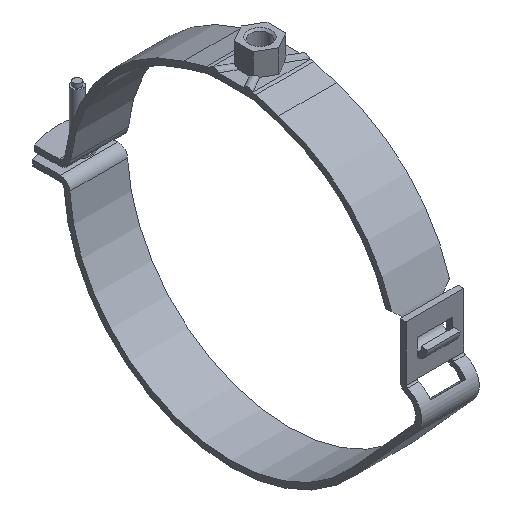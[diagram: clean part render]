
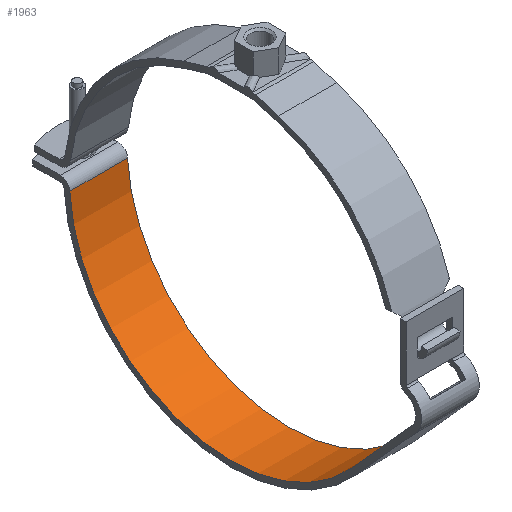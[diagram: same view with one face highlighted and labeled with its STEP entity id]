
A CAD part, isometric view. The second image highlights one B-rep face of the part: STEP entity #1963.
In plain terms, the highlighted cylindrical face has radius 84 mm (diameter 168 mm), a partial arc.
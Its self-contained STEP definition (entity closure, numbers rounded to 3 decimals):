
#182=LINE('',#3281,#359);
#183=LINE('',#3283,#360);
#359=VECTOR('',#2670,30.);
#360=VECTOR('',#2673,30.);
#532=FACE_OUTER_BOUND('',#647,.T.);
#647=EDGE_LOOP('',(#1654,#1655,#1656,#1657));
#733=CIRCLE('',#2103,84.);
#736=CIRCLE('',#2107,84.);
#906=VERTEX_POINT('',#3163);
#907=VERTEX_POINT('',#3165);
#910=VERTEX_POINT('',#3173);
#911=VERTEX_POINT('',#3175);
#1136=EDGE_CURVE('',#906,#907,#733,.T.);
#1141=EDGE_CURVE('',#910,#911,#736,.T.);
#1196=EDGE_CURVE('',#906,#911,#182,.T.);
#1197=EDGE_CURVE('',#907,#910,#183,.T.);
#1654=ORIENTED_EDGE('',*,*,#1196,.T.);
#1655=ORIENTED_EDGE('',*,*,#1141,.F.);
#1656=ORIENTED_EDGE('',*,*,#1197,.F.);
#1657=ORIENTED_EDGE('',*,*,#1136,.F.);
#1773=CYLINDRICAL_SURFACE('',#2154,84.);
#1963=ADVANCED_FACE('',(#532),#1773,.F.);
#2103=AXIS2_PLACEMENT_3D('',#3166,#2539,#2540);
#2107=AXIS2_PLACEMENT_3D('',#3176,#2549,#2550);
#2154=AXIS2_PLACEMENT_3D('',#3282,#2671,#2672);
#2539=DIRECTION('center_axis',(1.,0.,0.));
#2540=DIRECTION('ref_axis',(0.,0.743,0.67));
#2549=DIRECTION('center_axis',(-1.,0.,0.));
#2550=DIRECTION('ref_axis',(0.,0.743,0.67));
#2670=DIRECTION('',(1.,0.,0.));
#2671=DIRECTION('center_axis',(1.,0.,0.));
#2672=DIRECTION('ref_axis',(0.,0.743,0.67));
#2673=DIRECTION('',(1.,0.,0.));
#3163=CARTESIAN_POINT('',(-15.,-62.39,-56.245));
#3165=CARTESIAN_POINT('',(-15.,83.867,-4.719));
#3166=CARTESIAN_POINT('Origin',(-15.,0.,0.));
#3173=CARTESIAN_POINT('',(15.,83.867,-4.719));
#3175=CARTESIAN_POINT('',(15.,-62.39,-56.245));
#3176=CARTESIAN_POINT('Origin',(15.,0.,0.));
#3281=CARTESIAN_POINT('',(0.,-62.39,-56.245));
#3282=CARTESIAN_POINT('Origin',(0.,0.,0.));
#3283=CARTESIAN_POINT('',(0.,83.867,-4.719));
